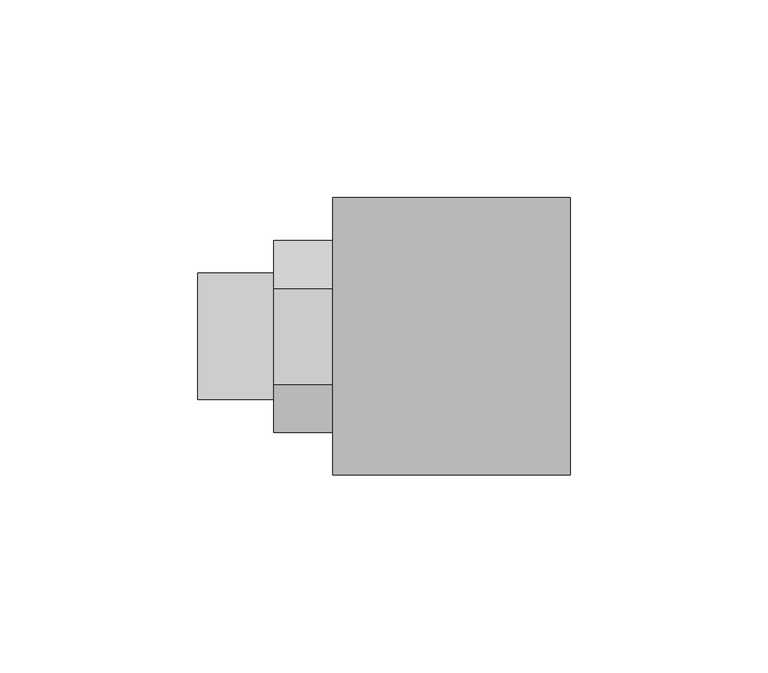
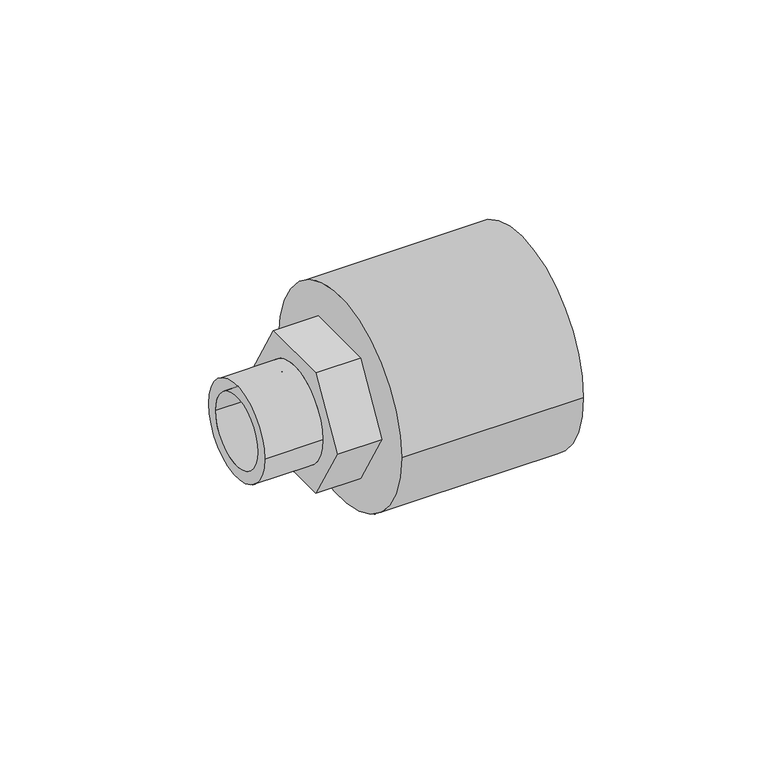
"""IFC4 building model written with IfcOpenShell, lengths in millimetres: pipe fitting geometry, NIRON RED termofusion roscado enlace rosca macho hexagonal : Estándar."""

from ifc_helpers import new_model, si_unit, point, frame, origin, origin_2d, place, context, project, spatial, polyline, circle_curve, trimmed, segment, composite_curve, outline, extrude, source, transform, mapped, element, save
from ifc_brep_helpers import plane_surface, cylinder_surface, revolved_surface, advanced_brep


def pipe_fitting_3dcc711f(model_context):
    return source(origin(), model_context, "Body", "SolidModel", [
        extrude(outline(composite_curve([segment(trimmed(circle_curve(origin_2d(), 16.0), [point((-16.0, 0.0))], [point((16.0, 0.0))], False, "CARTESIAN"), True, "CONTINUOUS"), segment(trimmed(circle_curve(origin_2d(), 16.0), [point((16.0, 0.0))], [point((-16.0, 0.0))], False, "CARTESIAN"), True, "CONTINUOUS")], self_intersect=False), holes=[composite_curve([segment(trimmed(circle_curve(origin_2d(), 12.0), [point((-12.0, 0.0))], [point((12.0, 0.0))], True, "CARTESIAN"), True, "CONTINUOUS"), segment(trimmed(circle_curve(origin_2d(), 12.0), [point((12.0, 0.0))], [point((-12.0, 0.0))], True, "CARTESIAN"), True, "CONTINUOUS")], self_intersect=False)]), frame((-19.1, 0.0, 0.0), z_axis=(1.0, 0.0, 0.0), x_axis=(0.0, 1.0, 0.0)), (0.0, 0.0, 1.0), 19.1),
        advanced_brep(
        [(74.9, 35.0, 0.0), (74.9, -35.0, 0.0), (15.0, 35.0, 0.0), (15.0, -35.0, 0.0), (15.0, -16.0, 0.0), (15.0, 16.0, 0.0), (23.7, 16.0, 0.0), (23.7, -16.0, 0.0)],
        [
            (0, 1, circle_curve(frame((74.9, 0.0, 0.0), z_axis=(1.0, 0.0, 0.0), x_axis=(0.0, -1.0, 0.0)), 35.0)),
            (1, 0, circle_curve(frame((74.9, 0.0, 0.0), z_axis=(1.0, 0.0, 0.0), x_axis=(0.0, -1.0, 0.0)), 35.0)),
            (2, 3, circle_curve(frame((15.0, 0.0, 0.0), z_axis=(-1.0, 0.0, 0.0), x_axis=(0.0, -1.0, 0.0)), 35.0)),
            (3, 2, circle_curve(frame((15.0, 0.0, 0.0), z_axis=(-1.0, 0.0, 0.0), x_axis=(0.0, -1.0, 0.0)), 35.0)),
            (4, 5, circle_curve(frame((15.0, 0.0, 0.0), z_axis=(1.0, 0.0, 0.0), x_axis=(0.0, -1.0, 0.0)), 16.0)),
            (5, 4, circle_curve(frame((15.0, 0.0, 0.0), z_axis=(1.0, 0.0, 0.0), x_axis=(0.0, -1.0, 0.0)), 16.0)),
            (1, 3),
            (2, 0),
            (6, 7, circle_curve(frame((23.7, 0.0, 0.0), z_axis=(-1.0, 0.0, 0.0), x_axis=(0.0, -1.0, 0.0)), 16.0)),
            (7, 6, circle_curve(frame((23.7, 0.0, 0.0), z_axis=(-1.0, 0.0, 0.0), x_axis=(0.0, -1.0, 0.0)), 16.0)),
            (6, 5),
            (4, 7),
        ],
        [
            plane_surface(frame((74.9, -35.0, 0.0), z_axis=(1.0, 0.0, 0.0), x_axis=(0.0, 0.0, -1.0))),
            plane_surface(frame((15.0, -35.0, 0.0), z_axis=(-1.0, 0.0, 0.0), x_axis=(0.0, 0.0, 1.0))),
            cylinder_surface(frame((74.9, 0.0, 0.0), z_axis=(-1.0, 0.0, 0.0), x_axis=(0.0, -1.0, 0.0)), 35.0),
            plane_surface(frame((23.7, -16.0, 0.0), z_axis=(-1.0, 0.0, 0.0), x_axis=(0.0, 0.0, -1.0))),
            revolved_surface(polyline([(15.0, -16.0, 0.0), (23.7, -16.0, 0.0)]), (23.7, 0.0, 0.0), (-1.0, 0.0, 0.0)),
        ],
        [
            (0, [[1, 2]]),
            (1, [[3, 4], [5, 6]]),
            (2, [[-2, 7, -3, 8]]),
            (2, [[-1, -8, -4, -7]]),
            (3, [[9, 10]]),
            (4, [[-9, 11, -5, 12]]),
            (4, [[-10, -12, -6, -11]]),
        ],
    ),
        advanced_brep(
        [(45.0, -12.1243557, -21.0), (45.0, 12.1243557, -21.0), (45.0, 24.2487113, 0.0), (45.0, 12.1243557, 21.0), (45.0, -12.1243557, 21.0), (45.0, -24.2487113, 0.0), (0.0, -12.1243557, -21.0), (0.0, -24.2487113, 0.0), (0.0, -12.1243557, 21.0), (0.0, 12.1243557, 21.0), (0.0, 24.2487113, 0.0), (0.0, 12.1243557, -21.0), (0.0, -16.0, 0.0), (0.0, 16.0, 0.0), (23.7, 16.0, 0.0), (23.7, -16.0, 0.0)],
        [
            (0, 1),
            (1, 2),
            (2, 3),
            (3, 4),
            (4, 5),
            (5, 0),
            (6, 7),
            (7, 8),
            (8, 9),
            (9, 10),
            (10, 11),
            (11, 6),
            (12, 13, circle_curve(frame((0.0, 0.0, 0.0), z_axis=(1.0, 0.0, 0.0), x_axis=(0.0, -1.0, 0.0)), 16.0)),
            (13, 12, circle_curve(frame((0.0, 0.0, 0.0), z_axis=(1.0, 0.0, 0.0), x_axis=(0.0, -1.0, 0.0)), 16.0)),
            (0, 6),
            (11, 1),
            (10, 2),
            (9, 3),
            (8, 4),
            (7, 5),
            (14, 15, circle_curve(frame((23.7, 0.0, 0.0), z_axis=(-1.0, 0.0, 0.0), x_axis=(0.0, -1.0, 0.0)), 16.0)),
            (15, 14, circle_curve(frame((23.7, 0.0, 0.0), z_axis=(-1.0, 0.0, 0.0), x_axis=(0.0, -1.0, 0.0)), 16.0)),
            (14, 13),
            (12, 15),
        ],
        [
            plane_surface(frame((45.0, 0.0, 0.0), z_axis=(1.0, 0.0, 0.0), x_axis=(0.0, 0.0, 1.0))),
            plane_surface(frame((0.0, 0.0, 0.0), z_axis=(-1.0, 0.0, 0.0), x_axis=(0.0, 0.0, 1.0))),
            plane_surface(frame((45.0, -12.1243557, -21.0), z_axis=(0.0, 0.0, -1.0), x_axis=(-1.0, 0.0, 0.0))),
            plane_surface(frame((45.0, 12.1243557, -21.0), z_axis=(0.0, 0.8660254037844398, -0.49999999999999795), x_axis=(-1.0, 0.0, 0.0))),
            plane_surface(frame((45.0, 24.2487113, 0.0), z_axis=(0.0, 0.866025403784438, 0.5000000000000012), x_axis=(-1.0, 0.0, 0.0))),
            plane_surface(frame((45.0, 12.1243557, 21.0), z_axis=(0.0, 0.0, 1.0), x_axis=(-1.0, 0.0, 0.0))),
            plane_surface(frame((45.0, -12.1243557, 21.0), z_axis=(0.0, -0.8660254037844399, 0.49999999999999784), x_axis=(-1.0, 0.0, 0.0))),
            plane_surface(frame((45.0, -24.2487113, 0.0), z_axis=(0.0, -0.8660254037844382, -0.500000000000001), x_axis=(-1.0, 0.0, 0.0))),
            plane_surface(frame((23.7, -16.0, 0.0), z_axis=(-1.0, 0.0, 0.0), x_axis=(0.0, 0.0, -1.0))),
            revolved_surface(polyline([(0.0, -16.0, 0.0), (23.7, -16.0, 0.0)]), (23.7, 0.0, 0.0), (-1.0, 0.0, 0.0)),
        ],
        [
            (0, [[1, 2, 3, 4, 5, 6]]),
            (1, [[7, 8, 9, 10, 11, 12], [13, 14]]),
            (2, [[-1, 15, -12, 16]]),
            (3, [[-2, -16, -11, 17]]),
            (4, [[-3, -17, -10, 18]]),
            (5, [[-4, -18, -9, 19]]),
            (6, [[-5, -19, -8, 20]]),
            (7, [[-6, -20, -7, -15]]),
            (8, [[21, 22]]),
            (9, [[-21, 23, -13, 24]]),
            (9, [[-22, -24, -14, -23]]),
        ],
    ),
    ])


if __name__ == "__main__":
    model = new_model("IFC4")
    model_context = context("Model", 3, world=origin())
    ifc_project = project(units=[si_unit("LENGTHUNIT", "METRE", prefix="MILLI")], contexts=[model_context])
    site = spatial("IfcSite", under=ifc_project)
    building = spatial("IfcBuilding", under=site)
    placement = place(None, origin())
    pipe_fitting_shape = pipe_fitting_3dcc711f(model_context)
    element("IfcPipeFitting", 1, ObjectType="NIRON RED termofusion roscado enlace rosca macho hexagonal : Estándar", at=placement, inside=building, context=model_context, shape_type="MappedRepresentation", body=[
        mapped(pipe_fitting_shape, transform((0.0, 0.0, 0.0), x_axis=(1.0, 0.0, 0.0), y_axis=(0.0, 1.0, 0.0), z_axis=(0.0, 0.0, 1.0))),
    ])
    save(model, "model.ifc")
